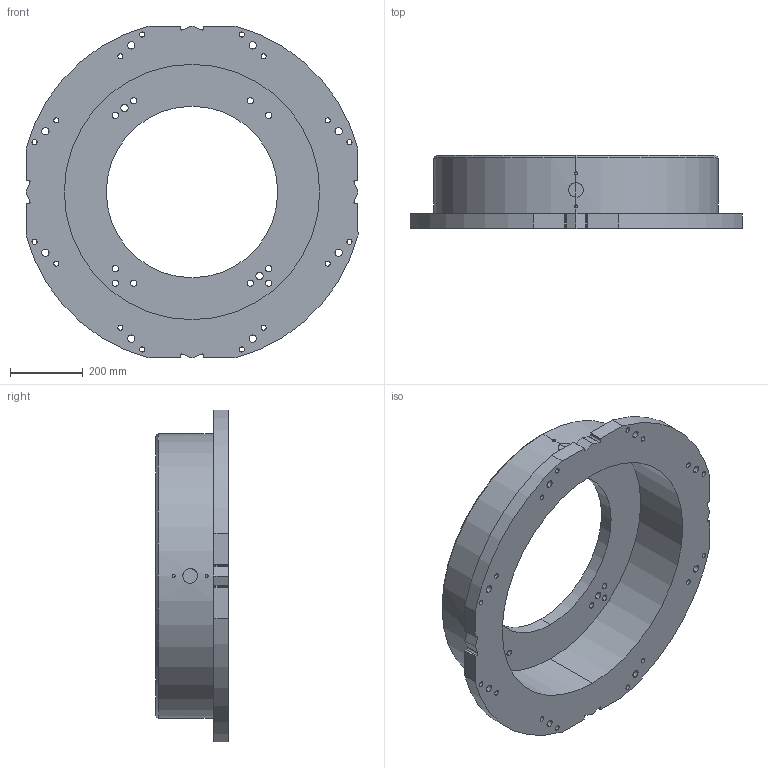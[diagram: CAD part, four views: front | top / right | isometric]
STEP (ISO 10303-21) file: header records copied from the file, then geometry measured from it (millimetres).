
FILE_DESCRIPTION (( 'STEP AP214' ), '1' );
FILE_NAME ('P-200.STEP', '2025-12-09T15:17:03', ( '' ), ( '' ), 'SwSTEP 2.0', 'SolidWorks 2022', '' );
FILE_SCHEMA (( 'AUTOMOTIVE_DESIGN' ));
Length unit declared in the file: millimetre
Products named in the file (1): P-200
Bounding box: 910 x 200 x 910 mm (x, y, z)
Volume: 34243257.6 mm3; surface area: 1992977.1 mm2
Topology: 1 solids, 1 shells, 167 faces, 469 edges, 312 vertices
Faces by surface type: cylinder 129, plane 28, bspline 8, cone 2
Entity records: 8513 total; most frequent: CARTESIAN_POINT 3382, ORIENTED_EDGE 938, DIRECTION 913, EDGE_CURVE 469, AXIS2_PLACEMENT_3D 358, VERTEX_POINT 312, EDGE_LOOP 249, CIRCLE 198
